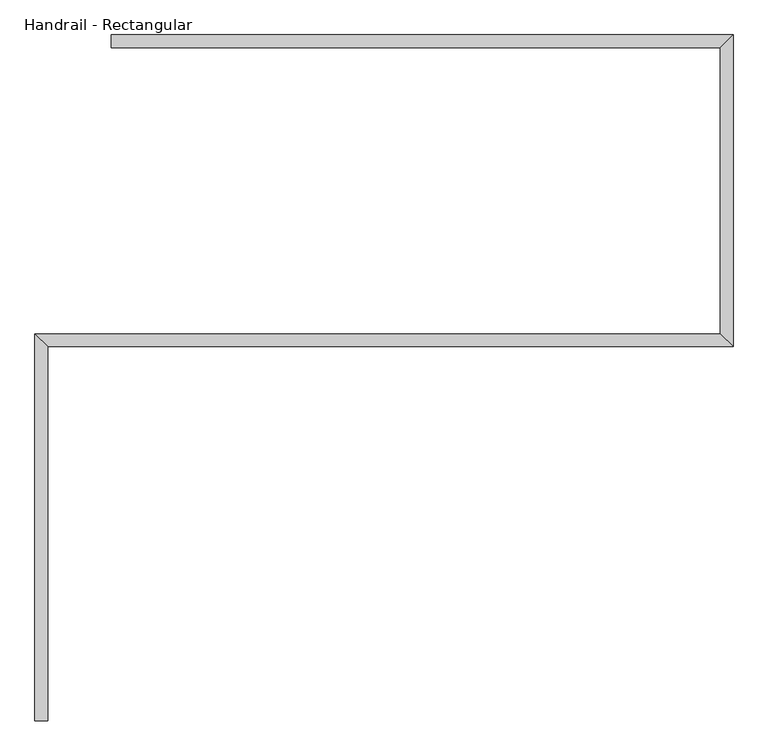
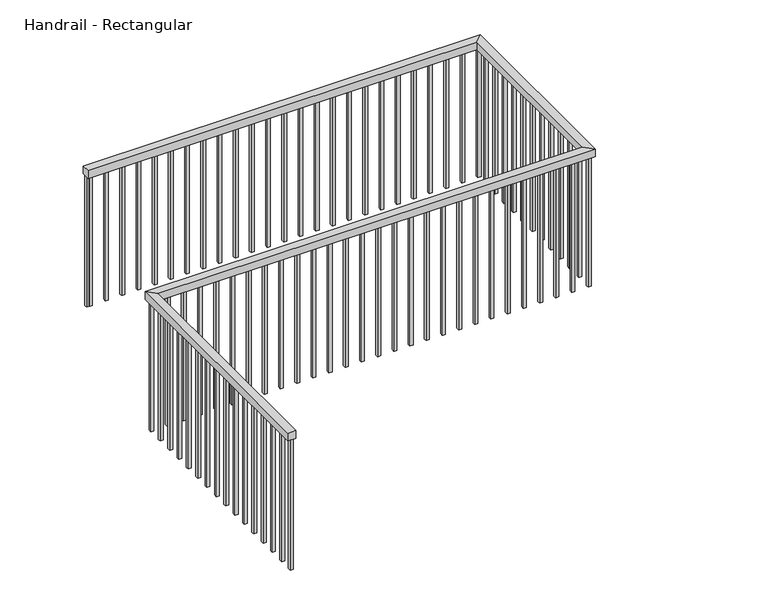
"""IFC4 building model written with IfcOpenShell, lengths in millimetres: railing geometry, Handrail - Rectangular."""

from ifc_helpers import new_model, si_unit, frame, origin, place, context, project, spatial, polyline, outline, extrude, faceted_brep, source, transform, mapped, element, save


def handrail_rectangular_678e5dc5(model_context):
    return source(origin(), model_context, "Body", "SolidModel", [
        faceted_brep([(385.7789583, 6159.6260405, 35509.2), (334.9789583, 6159.6260405, 35509.2), (334.9789583, 6159.6260405, 35458.4), (385.7789583, 6159.6260405, 35458.4), (385.7789583, 7658.2260405, 35509.2), (334.9789583, 7709.0260405, 35509.2), (334.9789583, 7709.0260405, 35458.4), (385.7789583, 7658.2260405, 35458.4), (3128.9789583, 7658.2260405, 35509.2), (3078.1789583, 7709.0260405, 35509.2), (3078.1789583, 7709.0260405, 35458.4), (3128.9789583, 7658.2260405, 35458.4), (3128.9789583, 8906.0010405, 35509.2), (3078.1789583, 8855.2010405, 35509.2), (3078.1789583, 8855.2010405, 35458.4), (3128.9789583, 8906.0010405, 35458.4), (639.7789583, 8906.0010405, 35509.2), (639.7789583, 8906.0010405, 35458.4), (639.7789583, 8855.2010405, 35458.4), (639.7789583, 8855.2010405, 35509.2)], [[[0, 1, 2, 3]], [[1, 0, 4, 5]], [[2, 1, 5, 6]], [[3, 2, 6, 7]], [[0, 3, 7, 4]], [[5, 4, 8, 9]], [[6, 5, 9, 10]], [[7, 6, 10, 11]], [[4, 7, 11, 8]], [[9, 8, 12, 13]], [[10, 9, 13, 14]], [[11, 10, 14, 15]], [[8, 11, 15, 12]], [[16, 17, 18, 19]], [[13, 12, 16, 19]], [[14, 13, 19, 18]], [[15, 14, 18, 17]], [[12, 15, 17, 16]]]),
        extrude(outline(polyline([(674.7039583, 8890.1260405), (674.7039583, 8871.0760405), (655.6539583, 8871.0760405), (655.6539583, 8890.1260405), (674.7039583, 8890.1260405)])), frame((0.0, 0.0, 34594.8), z_axis=(0.0, 0.0, 1.0), x_axis=(1.0, 0.0, 0.0)), (0.0, 0.0, 1.0), 863.6),
        extrude(outline(polyline([(776.3039583, 8890.1260405), (776.3039583, 8871.0760405), (757.2539583, 8871.0760405), (757.2539583, 8890.1260405), (776.3039583, 8890.1260405)])), frame((0.0, 0.0, 34594.8), z_axis=(0.0, 0.0, 1.0), x_axis=(1.0, 0.0, 0.0)), (0.0, 0.0, 1.0), 863.6),
        extrude(outline(polyline([(877.9039583, 8890.1260405), (877.9039583, 8871.0760405), (858.8539583, 8871.0760405), (858.8539583, 8890.1260405), (877.9039583, 8890.1260405)])), frame((0.0, 0.0, 34594.8), z_axis=(0.0, 0.0, 1.0), x_axis=(1.0, 0.0, 0.0)), (0.0, 0.0, 1.0), 863.6),
        extrude(outline(polyline([(979.5039583, 8890.1260405), (979.5039583, 8871.0760405), (960.4539583, 8871.0760405), (960.4539583, 8890.1260405), (979.5039583, 8890.1260405)])), frame((0.0, 0.0, 34594.8), z_axis=(0.0, 0.0, 1.0), x_axis=(1.0, 0.0, 0.0)), (0.0, 0.0, 1.0), 863.6),
        extrude(outline(polyline([(1081.1039583, 8890.1260405), (1081.1039583, 8871.0760405), (1062.0539583, 8871.0760405), (1062.0539583, 8890.1260405), (1081.1039583, 8890.1260405)])), frame((0.0, 0.0, 34594.8), z_axis=(0.0, 0.0, 1.0), x_axis=(1.0, 0.0, 0.0)), (0.0, 0.0, 1.0), 863.6),
        extrude(outline(polyline([(1182.7039583, 8890.1260405), (1182.7039583, 8871.0760405), (1163.6539583, 8871.0760405), (1163.6539583, 8890.1260405), (1182.7039583, 8890.1260405)])), frame((0.0, 0.0, 34594.8), z_axis=(0.0, 0.0, 1.0), x_axis=(1.0, 0.0, 0.0)), (0.0, 0.0, 1.0), 863.6),
        extrude(outline(polyline([(1284.3039583, 8890.1260405), (1284.3039583, 8871.0760405), (1265.2539583, 8871.0760405), (1265.2539583, 8890.1260405), (1284.3039583, 8890.1260405)])), frame((0.0, 0.0, 34594.8), z_axis=(0.0, 0.0, 1.0), x_axis=(1.0, 0.0, 0.0)), (0.0, 0.0, 1.0), 863.6),
        extrude(outline(polyline([(1385.9039583, 8890.1260405), (1385.9039583, 8871.0760405), (1366.8539583, 8871.0760405), (1366.8539583, 8890.1260405), (1385.9039583, 8890.1260405)])), frame((0.0, 0.0, 34594.8), z_axis=(0.0, 0.0, 1.0), x_axis=(1.0, 0.0, 0.0)), (0.0, 0.0, 1.0), 863.6),
        extrude(outline(polyline([(1487.5039583, 8890.1260405), (1487.5039583, 8871.0760405), (1468.4539583, 8871.0760405), (1468.4539583, 8890.1260405), (1487.5039583, 8890.1260405)])), frame((0.0, 0.0, 34594.8), z_axis=(0.0, 0.0, 1.0), x_axis=(1.0, 0.0, 0.0)), (0.0, 0.0, 1.0), 863.6),
        extrude(outline(polyline([(1589.1039583, 8890.1260405), (1589.1039583, 8871.0760405), (1570.0539583, 8871.0760405), (1570.0539583, 8890.1260405), (1589.1039583, 8890.1260405)])), frame((0.0, 0.0, 34594.8), z_axis=(0.0, 0.0, 1.0), x_axis=(1.0, 0.0, 0.0)), (0.0, 0.0, 1.0), 863.6),
        extrude(outline(polyline([(1690.7039583, 8890.1260405), (1690.7039583, 8871.0760405), (1671.6539583, 8871.0760405), (1671.6539583, 8890.1260405), (1690.7039583, 8890.1260405)])), frame((0.0, 0.0, 34594.8), z_axis=(0.0, 0.0, 1.0), x_axis=(1.0, 0.0, 0.0)), (0.0, 0.0, 1.0), 863.6),
        extrude(outline(polyline([(1792.3039583, 8890.1260405), (1792.3039583, 8871.0760405), (1773.2539583, 8871.0760405), (1773.2539583, 8890.1260405), (1792.3039583, 8890.1260405)])), frame((0.0, 0.0, 34594.8), z_axis=(0.0, 0.0, 1.0), x_axis=(1.0, 0.0, 0.0)), (0.0, 0.0, 1.0), 863.6),
        extrude(outline(polyline([(1893.9039583, 8890.1260405), (1893.9039583, 8871.0760405), (1874.8539583, 8871.0760405), (1874.8539583, 8890.1260405), (1893.9039583, 8890.1260405)])), frame((0.0, 0.0, 34594.8), z_axis=(0.0, 0.0, 1.0), x_axis=(1.0, 0.0, 0.0)), (0.0, 0.0, 1.0), 863.6),
        extrude(outline(polyline([(1995.5039583, 8890.1260405), (1995.5039583, 8871.0760405), (1976.4539583, 8871.0760405), (1976.4539583, 8890.1260405), (1995.5039583, 8890.1260405)])), frame((0.0, 0.0, 34594.8), z_axis=(0.0, 0.0, 1.0), x_axis=(1.0, 0.0, 0.0)), (0.0, 0.0, 1.0), 863.6),
        extrude(outline(polyline([(2097.1039583, 8890.1260405), (2097.1039583, 8871.0760405), (2078.0539583, 8871.0760405), (2078.0539583, 8890.1260405), (2097.1039583, 8890.1260405)])), frame((0.0, 0.0, 34594.8), z_axis=(0.0, 0.0, 1.0), x_axis=(1.0, 0.0, 0.0)), (0.0, 0.0, 1.0), 863.6),
        extrude(outline(polyline([(2198.7039583, 8890.1260405), (2198.7039583, 8871.0760405), (2179.6539583, 8871.0760405), (2179.6539583, 8890.1260405), (2198.7039583, 8890.1260405)])), frame((0.0, 0.0, 34594.8), z_axis=(0.0, 0.0, 1.0), x_axis=(1.0, 0.0, 0.0)), (0.0, 0.0, 1.0), 863.6),
        extrude(outline(polyline([(2300.3039583, 8890.1260405), (2300.3039583, 8871.0760405), (2281.2539583, 8871.0760405), (2281.2539583, 8890.1260405), (2300.3039583, 8890.1260405)])), frame((0.0, 0.0, 34594.8), z_axis=(0.0, 0.0, 1.0), x_axis=(1.0, 0.0, 0.0)), (0.0, 0.0, 1.0), 863.6),
        extrude(outline(polyline([(2401.9039583, 8890.1260405), (2401.9039583, 8871.0760405), (2382.8539583, 8871.0760405), (2382.8539583, 8890.1260405), (2401.9039583, 8890.1260405)])), frame((0.0, 0.0, 34594.8), z_axis=(0.0, 0.0, 1.0), x_axis=(1.0, 0.0, 0.0)), (0.0, 0.0, 1.0), 863.6),
        extrude(outline(polyline([(2503.5039583, 8890.1260405), (2503.5039583, 8871.0760405), (2484.4539583, 8871.0760405), (2484.4539583, 8890.1260405), (2503.5039583, 8890.1260405)])), frame((0.0, 0.0, 34594.8), z_axis=(0.0, 0.0, 1.0), x_axis=(1.0, 0.0, 0.0)), (0.0, 0.0, 1.0), 863.6),
        extrude(outline(polyline([(2605.1039583, 8890.1260405), (2605.1039583, 8871.0760405), (2586.0539583, 8871.0760405), (2586.0539583, 8890.1260405), (2605.1039583, 8890.1260405)])), frame((0.0, 0.0, 34594.8), z_axis=(0.0, 0.0, 1.0), x_axis=(1.0, 0.0, 0.0)), (0.0, 0.0, 1.0), 863.6),
        extrude(outline(polyline([(2706.7039583, 8890.1260405), (2706.7039583, 8871.0760405), (2687.6539583, 8871.0760405), (2687.6539583, 8890.1260405), (2706.7039583, 8890.1260405)])), frame((0.0, 0.0, 34594.8), z_axis=(0.0, 0.0, 1.0), x_axis=(1.0, 0.0, 0.0)), (0.0, 0.0, 1.0), 863.6),
        extrude(outline(polyline([(2808.3039583, 8890.1260405), (2808.3039583, 8871.0760405), (2789.2539583, 8871.0760405), (2789.2539583, 8890.1260405), (2808.3039583, 8890.1260405)])), frame((0.0, 0.0, 34594.8), z_axis=(0.0, 0.0, 1.0), x_axis=(1.0, 0.0, 0.0)), (0.0, 0.0, 1.0), 863.6),
        extrude(outline(polyline([(2909.9039583, 8890.1260405), (2909.9039583, 8871.0760405), (2890.8539583, 8871.0760405), (2890.8539583, 8890.1260405), (2909.9039583, 8890.1260405)])), frame((0.0, 0.0, 34594.8), z_axis=(0.0, 0.0, 1.0), x_axis=(1.0, 0.0, 0.0)), (0.0, 0.0, 1.0), 863.6),
        extrude(outline(polyline([(3011.5039583, 8890.1260405), (3011.5039583, 8871.0760405), (2992.4539583, 8871.0760405), (2992.4539583, 8890.1260405), (3011.5039583, 8890.1260405)])), frame((0.0, 0.0, 34594.8), z_axis=(0.0, 0.0, 1.0), x_axis=(1.0, 0.0, 0.0)), (0.0, 0.0, 1.0), 863.6),
        extrude(outline(polyline([(3113.1039583, 8791.7010405), (3094.0539583, 8791.7010405), (3094.0539583, 8810.7510405), (3113.1039583, 8810.7510405), (3113.1039583, 8791.7010405)])), frame((0.0, 0.0, 34594.8), z_axis=(0.0, 0.0, 1.0), x_axis=(1.0, 0.0, 0.0)), (0.0, 0.0, 1.0), 863.6),
        extrude(outline(polyline([(3113.1039583, 8690.1010405), (3094.0539583, 8690.1010405), (3094.0539583, 8709.1510405), (3113.1039583, 8709.1510405), (3113.1039583, 8690.1010405)])), frame((0.0, 0.0, 34594.8), z_axis=(0.0, 0.0, 1.0), x_axis=(1.0, 0.0, 0.0)), (0.0, 0.0, 1.0), 863.6),
        extrude(outline(polyline([(3113.1039583, 8588.5010405), (3094.0539583, 8588.5010405), (3094.0539583, 8607.5510405), (3113.1039583, 8607.5510405), (3113.1039583, 8588.5010405)])), frame((0.0, 0.0, 34594.8), z_axis=(0.0, 0.0, 1.0), x_axis=(1.0, 0.0, 0.0)), (0.0, 0.0, 1.0), 863.6),
        extrude(outline(polyline([(3113.1039583, 8486.9010405), (3094.0539583, 8486.9010405), (3094.0539583, 8505.9510405), (3113.1039583, 8505.9510405), (3113.1039583, 8486.9010405)])), frame((0.0, 0.0, 34594.8), z_axis=(0.0, 0.0, 1.0), x_axis=(1.0, 0.0, 0.0)), (0.0, 0.0, 1.0), 863.6),
        extrude(outline(polyline([(3113.1039583, 8385.3010405), (3094.0539583, 8385.3010405), (3094.0539583, 8404.3510405), (3113.1039583, 8404.3510405), (3113.1039583, 8385.3010405)])), frame((0.0, 0.0, 34594.8), z_axis=(0.0, 0.0, 1.0), x_axis=(1.0, 0.0, 0.0)), (0.0, 0.0, 1.0), 863.6),
        extrude(outline(polyline([(3113.1039583, 8283.7010405), (3094.0539583, 8283.7010405), (3094.0539583, 8302.7510405), (3113.1039583, 8302.7510405), (3113.1039583, 8283.7010405)])), frame((0.0, 0.0, 34594.8), z_axis=(0.0, 0.0, 1.0), x_axis=(1.0, 0.0, 0.0)), (0.0, 0.0, 1.0), 863.6),
        extrude(outline(polyline([(3113.1039583, 8182.1010405), (3094.0539583, 8182.1010405), (3094.0539583, 8201.1510405), (3113.1039583, 8201.1510405), (3113.1039583, 8182.1010405)])), frame((0.0, 0.0, 34594.8), z_axis=(0.0, 0.0, 1.0), x_axis=(1.0, 0.0, 0.0)), (0.0, 0.0, 1.0), 863.6),
        extrude(outline(polyline([(3113.1039583, 8080.5010405), (3094.0539583, 8080.5010405), (3094.0539583, 8099.5510405), (3113.1039583, 8099.5510405), (3113.1039583, 8080.5010405)])), frame((0.0, 0.0, 34594.8), z_axis=(0.0, 0.0, 1.0), x_axis=(1.0, 0.0, 0.0)), (0.0, 0.0, 1.0), 863.6),
        extrude(outline(polyline([(3113.1039583, 7978.9010405), (3094.0539583, 7978.9010405), (3094.0539583, 7997.9510405), (3113.1039583, 7997.9510405), (3113.1039583, 7978.9010405)])), frame((0.0, 0.0, 34594.8), z_axis=(0.0, 0.0, 1.0), x_axis=(1.0, 0.0, 0.0)), (0.0, 0.0, 1.0), 863.6),
        extrude(outline(polyline([(3113.1039583, 7877.3010405), (3094.0539583, 7877.3010405), (3094.0539583, 7896.3510405), (3113.1039583, 7896.3510405), (3113.1039583, 7877.3010405)])), frame((0.0, 0.0, 34594.8), z_axis=(0.0, 0.0, 1.0), x_axis=(1.0, 0.0, 0.0)), (0.0, 0.0, 1.0), 863.6),
        extrude(outline(polyline([(3113.1039583, 7775.7010405), (3094.0539583, 7775.7010405), (3094.0539583, 7794.7510405), (3113.1039583, 7794.7510405), (3113.1039583, 7775.7010405)])), frame((0.0, 0.0, 34594.8), z_axis=(0.0, 0.0, 1.0), x_axis=(1.0, 0.0, 0.0)), (0.0, 0.0, 1.0), 863.6),
        extrude(outline(polyline([(2992.4539583, 7674.1010405), (2992.4539583, 7693.1510405), (3011.5039583, 7693.1510405), (3011.5039583, 7674.1010405), (2992.4539583, 7674.1010405)])), frame((0.0, 0.0, 34594.8), z_axis=(0.0, 0.0, 1.0), x_axis=(1.0, 0.0, 0.0)), (0.0, 0.0, 1.0), 863.6),
        extrude(outline(polyline([(2890.8539583, 7674.1010405), (2890.8539583, 7693.1510405), (2909.9039583, 7693.1510405), (2909.9039583, 7674.1010405), (2890.8539583, 7674.1010405)])), frame((0.0, 0.0, 34594.8), z_axis=(0.0, 0.0, 1.0), x_axis=(1.0, 0.0, 0.0)), (0.0, 0.0, 1.0), 863.6),
        extrude(outline(polyline([(2789.2539583, 7674.1010405), (2789.2539583, 7693.1510405), (2808.3039583, 7693.1510405), (2808.3039583, 7674.1010405), (2789.2539583, 7674.1010405)])), frame((0.0, 0.0, 34594.8), z_axis=(0.0, 0.0, 1.0), x_axis=(1.0, 0.0, 0.0)), (0.0, 0.0, 1.0), 863.6),
        extrude(outline(polyline([(2687.6539583, 7674.1010405), (2687.6539583, 7693.1510405), (2706.7039583, 7693.1510405), (2706.7039583, 7674.1010405), (2687.6539583, 7674.1010405)])), frame((0.0, 0.0, 34594.8), z_axis=(0.0, 0.0, 1.0), x_axis=(1.0, 0.0, 0.0)), (0.0, 0.0, 1.0), 863.6),
        extrude(outline(polyline([(2586.0539583, 7674.1010405), (2586.0539583, 7693.1510405), (2605.1039583, 7693.1510405), (2605.1039583, 7674.1010405), (2586.0539583, 7674.1010405)])), frame((0.0, 0.0, 34594.8), z_axis=(0.0, 0.0, 1.0), x_axis=(1.0, 0.0, 0.0)), (0.0, 0.0, 1.0), 863.6),
        extrude(outline(polyline([(2484.4539583, 7674.1010405), (2484.4539583, 7693.1510405), (2503.5039583, 7693.1510405), (2503.5039583, 7674.1010405), (2484.4539583, 7674.1010405)])), frame((0.0, 0.0, 34594.8), z_axis=(0.0, 0.0, 1.0), x_axis=(1.0, 0.0, 0.0)), (0.0, 0.0, 1.0), 863.6),
        extrude(outline(polyline([(2382.8539583, 7674.1010405), (2382.8539583, 7693.1510405), (2401.9039583, 7693.1510405), (2401.9039583, 7674.1010405), (2382.8539583, 7674.1010405)])), frame((0.0, 0.0, 34594.8), z_axis=(0.0, 0.0, 1.0), x_axis=(1.0, 0.0, 0.0)), (0.0, 0.0, 1.0), 863.6),
        extrude(outline(polyline([(2281.2539583, 7674.1010405), (2281.2539583, 7693.1510405), (2300.3039583, 7693.1510405), (2300.3039583, 7674.1010405), (2281.2539583, 7674.1010405)])), frame((0.0, 0.0, 34594.8), z_axis=(0.0, 0.0, 1.0), x_axis=(1.0, 0.0, 0.0)), (0.0, 0.0, 1.0), 863.6),
        extrude(outline(polyline([(2179.6539583, 7674.1010405), (2179.6539583, 7693.1510405), (2198.7039583, 7693.1510405), (2198.7039583, 7674.1010405), (2179.6539583, 7674.1010405)])), frame((0.0, 0.0, 34594.8), z_axis=(0.0, 0.0, 1.0), x_axis=(1.0, 0.0, 0.0)), (0.0, 0.0, 1.0), 863.6),
        extrude(outline(polyline([(2078.0539583, 7674.1010405), (2078.0539583, 7693.1510405), (2097.1039583, 7693.1510405), (2097.1039583, 7674.1010405), (2078.0539583, 7674.1010405)])), frame((0.0, 0.0, 34594.8), z_axis=(0.0, 0.0, 1.0), x_axis=(1.0, 0.0, 0.0)), (0.0, 0.0, 1.0), 863.6),
        extrude(outline(polyline([(1976.4539583, 7674.1010405), (1976.4539583, 7693.1510405), (1995.5039583, 7693.1510405), (1995.5039583, 7674.1010405), (1976.4539583, 7674.1010405)])), frame((0.0, 0.0, 34594.8), z_axis=(0.0, 0.0, 1.0), x_axis=(1.0, 0.0, 0.0)), (0.0, 0.0, 1.0), 863.6),
        extrude(outline(polyline([(1874.8539583, 7674.1010405), (1874.8539583, 7693.1510405), (1893.9039583, 7693.1510405), (1893.9039583, 7674.1010405), (1874.8539583, 7674.1010405)])), frame((0.0, 0.0, 34594.8), z_axis=(0.0, 0.0, 1.0), x_axis=(1.0, 0.0, 0.0)), (0.0, 0.0, 1.0), 863.6),
        extrude(outline(polyline([(1773.2539583, 7674.1010405), (1773.2539583, 7693.1510405), (1792.3039583, 7693.1510405), (1792.3039583, 7674.1010405), (1773.2539583, 7674.1010405)])), frame((0.0, 0.0, 34594.8), z_axis=(0.0, 0.0, 1.0), x_axis=(1.0, 0.0, 0.0)), (0.0, 0.0, 1.0), 863.6),
        extrude(outline(polyline([(1671.6539583, 7674.1010405), (1671.6539583, 7693.1510405), (1690.7039583, 7693.1510405), (1690.7039583, 7674.1010405), (1671.6539583, 7674.1010405)])), frame((0.0, 0.0, 34594.8), z_axis=(0.0, 0.0, 1.0), x_axis=(1.0, 0.0, 0.0)), (0.0, 0.0, 1.0), 863.6),
        extrude(outline(polyline([(1570.0539583, 7674.1010405), (1570.0539583, 7693.1510405), (1589.1039583, 7693.1510405), (1589.1039583, 7674.1010405), (1570.0539583, 7674.1010405)])), frame((0.0, 0.0, 34594.8), z_axis=(0.0, 0.0, 1.0), x_axis=(1.0, 0.0, 0.0)), (0.0, 0.0, 1.0), 863.6),
        extrude(outline(polyline([(1468.4539583, 7674.1010405), (1468.4539583, 7693.1510405), (1487.5039583, 7693.1510405), (1487.5039583, 7674.1010405), (1468.4539583, 7674.1010405)])), frame((0.0, 0.0, 34594.8), z_axis=(0.0, 0.0, 1.0), x_axis=(1.0, 0.0, 0.0)), (0.0, 0.0, 1.0), 863.6),
        extrude(outline(polyline([(1366.8539583, 7674.1010405), (1366.8539583, 7693.1510405), (1385.9039583, 7693.1510405), (1385.9039583, 7674.1010405), (1366.8539583, 7674.1010405)])), frame((0.0, 0.0, 34594.8), z_axis=(0.0, 0.0, 1.0), x_axis=(1.0, 0.0, 0.0)), (0.0, 0.0, 1.0), 863.6),
        extrude(outline(polyline([(1265.2539583, 7674.1010405), (1265.2539583, 7693.1510405), (1284.3039583, 7693.1510405), (1284.3039583, 7674.1010405), (1265.2539583, 7674.1010405)])), frame((0.0, 0.0, 34594.8), z_axis=(0.0, 0.0, 1.0), x_axis=(1.0, 0.0, 0.0)), (0.0, 0.0, 1.0), 863.6),
        extrude(outline(polyline([(1163.6539583, 7674.1010405), (1163.6539583, 7693.1510405), (1182.7039583, 7693.1510405), (1182.7039583, 7674.1010405), (1163.6539583, 7674.1010405)])), frame((0.0, 0.0, 34594.8), z_axis=(0.0, 0.0, 1.0), x_axis=(1.0, 0.0, 0.0)), (0.0, 0.0, 1.0), 863.6),
        extrude(outline(polyline([(1062.0539583, 7674.1010405), (1062.0539583, 7693.1510405), (1081.1039583, 7693.1510405), (1081.1039583, 7674.1010405), (1062.0539583, 7674.1010405)])), frame((0.0, 0.0, 34594.8), z_axis=(0.0, 0.0, 1.0), x_axis=(1.0, 0.0, 0.0)), (0.0, 0.0, 1.0), 863.6),
        extrude(outline(polyline([(960.4539583, 7674.1010405), (960.4539583, 7693.1510405), (979.5039583, 7693.1510405), (979.5039583, 7674.1010405), (960.4539583, 7674.1010405)])), frame((0.0, 0.0, 34594.8), z_axis=(0.0, 0.0, 1.0), x_axis=(1.0, 0.0, 0.0)), (0.0, 0.0, 1.0), 863.6),
        extrude(outline(polyline([(858.8539583, 7674.1010405), (858.8539583, 7693.1510405), (877.9039583, 7693.1510405), (877.9039583, 7674.1010405), (858.8539583, 7674.1010405)])), frame((0.0, 0.0, 34594.8), z_axis=(0.0, 0.0, 1.0), x_axis=(1.0, 0.0, 0.0)), (0.0, 0.0, 1.0), 863.6),
        extrude(outline(polyline([(757.2539583, 7674.1010405), (757.2539583, 7693.1510405), (776.3039583, 7693.1510405), (776.3039583, 7674.1010405), (757.2539583, 7674.1010405)])), frame((0.0, 0.0, 34594.8), z_axis=(0.0, 0.0, 1.0), x_axis=(1.0, 0.0, 0.0)), (0.0, 0.0, 1.0), 863.6),
        extrude(outline(polyline([(655.6539583, 7674.1010405), (655.6539583, 7693.1510405), (674.7039583, 7693.1510405), (674.7039583, 7674.1010405), (655.6539583, 7674.1010405)])), frame((0.0, 0.0, 34594.8), z_axis=(0.0, 0.0, 1.0), x_axis=(1.0, 0.0, 0.0)), (0.0, 0.0, 1.0), 863.6),
        extrude(outline(polyline([(554.0539583, 7674.1010405), (554.0539583, 7693.1510405), (573.1039583, 7693.1510405), (573.1039583, 7674.1010405), (554.0539583, 7674.1010405)])), frame((0.0, 0.0, 34594.8), z_axis=(0.0, 0.0, 1.0), x_axis=(1.0, 0.0, 0.0)), (0.0, 0.0, 1.0), 863.6),
        extrude(outline(polyline([(452.4539583, 7674.1010405), (452.4539583, 7693.1510405), (471.5039583, 7693.1510405), (471.5039583, 7674.1010405), (452.4539583, 7674.1010405)])), frame((0.0, 0.0, 34594.8), z_axis=(0.0, 0.0, 1.0), x_axis=(1.0, 0.0, 0.0)), (0.0, 0.0, 1.0), 863.6),
        extrude(outline(polyline([(369.9039583, 7572.5010405), (350.8539583, 7572.5010405), (350.8539583, 7591.5510405), (369.9039583, 7591.5510405), (369.9039583, 7572.5010405)])), frame((0.0, 0.0, 34594.8), z_axis=(0.0, 0.0, 1.0), x_axis=(1.0, 0.0, 0.0)), (0.0, 0.0, 1.0), 863.6),
        extrude(outline(polyline([(369.9039583, 7470.9010405), (350.8539583, 7470.9010405), (350.8539583, 7489.9510405), (369.9039583, 7489.9510405), (369.9039583, 7470.9010405)])), frame((0.0, 0.0, 34594.8), z_axis=(0.0, 0.0, 1.0), x_axis=(1.0, 0.0, 0.0)), (0.0, 0.0, 1.0), 863.6),
        extrude(outline(polyline([(369.9039583, 7369.3010405), (350.8539583, 7369.3010405), (350.8539583, 7388.3510405), (369.9039583, 7388.3510405), (369.9039583, 7369.3010405)])), frame((0.0, 0.0, 34594.8), z_axis=(0.0, 0.0, 1.0), x_axis=(1.0, 0.0, 0.0)), (0.0, 0.0, 1.0), 863.6),
        extrude(outline(polyline([(369.9039583, 7267.7010405), (350.8539583, 7267.7010405), (350.8539583, 7286.7510405), (369.9039583, 7286.7510405), (369.9039583, 7267.7010405)])), frame((0.0, 0.0, 34594.8), z_axis=(0.0, 0.0, 1.0), x_axis=(1.0, 0.0, 0.0)), (0.0, 0.0, 1.0), 863.6),
        extrude(outline(polyline([(369.9039583, 7166.1010405), (350.8539583, 7166.1010405), (350.8539583, 7185.1510405), (369.9039583, 7185.1510405), (369.9039583, 7166.1010405)])), frame((0.0, 0.0, 34594.8), z_axis=(0.0, 0.0, 1.0), x_axis=(1.0, 0.0, 0.0)), (0.0, 0.0, 1.0), 863.6),
        extrude(outline(polyline([(369.9039583, 7064.5010405), (350.8539583, 7064.5010405), (350.8539583, 7083.5510405), (369.9039583, 7083.5510405), (369.9039583, 7064.5010405)])), frame((0.0, 0.0, 34594.8), z_axis=(0.0, 0.0, 1.0), x_axis=(1.0, 0.0, 0.0)), (0.0, 0.0, 1.0), 863.6),
        extrude(outline(polyline([(369.9039583, 6962.9010405), (350.8539583, 6962.9010405), (350.8539583, 6981.9510405), (369.9039583, 6981.9510405), (369.9039583, 6962.9010405)])), frame((0.0, 0.0, 34594.8), z_axis=(0.0, 0.0, 1.0), x_axis=(1.0, 0.0, 0.0)), (0.0, 0.0, 1.0), 863.6),
        extrude(outline(polyline([(369.9039583, 6861.3010405), (350.8539583, 6861.3010405), (350.8539583, 6880.3510405), (369.9039583, 6880.3510405), (369.9039583, 6861.3010405)])), frame((0.0, 0.0, 34594.8), z_axis=(0.0, 0.0, 1.0), x_axis=(1.0, 0.0, 0.0)), (0.0, 0.0, 1.0), 863.6),
        extrude(outline(polyline([(369.9039583, 6759.7010405), (350.8539583, 6759.7010405), (350.8539583, 6778.7510405), (369.9039583, 6778.7510405), (369.9039583, 6759.7010405)])), frame((0.0, 0.0, 34594.8), z_axis=(0.0, 0.0, 1.0), x_axis=(1.0, 0.0, 0.0)), (0.0, 0.0, 1.0), 863.6),
        extrude(outline(polyline([(369.9039583, 6658.1010405), (350.8539583, 6658.1010405), (350.8539583, 6677.1510405), (369.9039583, 6677.1510405), (369.9039583, 6658.1010405)])), frame((0.0, 0.0, 34594.8), z_axis=(0.0, 0.0, 1.0), x_axis=(1.0, 0.0, 0.0)), (0.0, 0.0, 1.0), 863.6),
        extrude(outline(polyline([(369.9039583, 6556.5010405), (350.8539583, 6556.5010405), (350.8539583, 6575.5510405), (369.9039583, 6575.5510405), (369.9039583, 6556.5010405)])), frame((0.0, 0.0, 34594.8), z_axis=(0.0, 0.0, 1.0), x_axis=(1.0, 0.0, 0.0)), (0.0, 0.0, 1.0), 863.6),
        extrude(outline(polyline([(369.9039583, 6454.9010405), (350.8539583, 6454.9010405), (350.8539583, 6473.9510405), (369.9039583, 6473.9510405), (369.9039583, 6454.9010405)])), frame((0.0, 0.0, 34594.8), z_axis=(0.0, 0.0, 1.0), x_axis=(1.0, 0.0, 0.0)), (0.0, 0.0, 1.0), 863.6),
        extrude(outline(polyline([(369.9039583, 6353.3010405), (350.8539583, 6353.3010405), (350.8539583, 6372.3510405), (369.9039583, 6372.3510405), (369.9039583, 6353.3010405)])), frame((0.0, 0.0, 34594.8), z_axis=(0.0, 0.0, 1.0), x_axis=(1.0, 0.0, 0.0)), (0.0, 0.0, 1.0), 863.6),
        extrude(outline(polyline([(369.9039583, 6251.7010405), (350.8539583, 6251.7010405), (350.8539583, 6270.7510405), (369.9039583, 6270.7510405), (369.9039583, 6251.7010405)])), frame((0.0, 0.0, 34594.8), z_axis=(0.0, 0.0, 1.0), x_axis=(1.0, 0.0, 0.0)), (0.0, 0.0, 1.0), 863.6),
        extrude(outline(polyline([(3113.1039583, 8871.0760405), (3094.0539583, 8871.0760405), (3094.0539583, 8890.1260405), (3113.1039583, 8890.1260405), (3113.1039583, 8871.0760405)])), frame((0.0, 0.0, 34594.8), z_axis=(0.0, 0.0, 1.0), x_axis=(1.0, 0.0, 0.0)), (0.0, 0.0, 1.0), 863.6),
        extrude(outline(polyline([(3094.0539583, 7674.1010405), (3094.0539583, 7693.1510405), (3113.1039583, 7693.1510405), (3113.1039583, 7674.1010405), (3094.0539583, 7674.1010405)])), frame((0.0, 0.0, 34594.8), z_axis=(0.0, 0.0, 1.0), x_axis=(1.0, 0.0, 0.0)), (0.0, 0.0, 1.0), 863.6),
        extrude(outline(polyline([(369.9039583, 7674.1010405), (350.8539583, 7674.1010405), (350.8539583, 7693.1510405), (369.9039583, 7693.1510405), (369.9039583, 7674.1010405)])), frame((0.0, 0.0, 34594.8), z_axis=(0.0, 0.0, 1.0), x_axis=(1.0, 0.0, 0.0)), (0.0, 0.0, 1.0), 863.6),
        extrude(outline(polyline([(658.8289583, 8890.1260405), (658.8289583, 8871.0760405), (639.7789583, 8871.0760405), (639.7789583, 8890.1260405), (658.8289583, 8890.1260405)])), frame((0.0, 0.0, 34594.8), z_axis=(0.0, 0.0, 1.0), x_axis=(1.0, 0.0, 0.0)), (0.0, 0.0, 1.0), 863.6),
        extrude(outline(polyline([(369.9039583, 6159.6260405), (350.8539583, 6159.6260405), (350.8539583, 6178.6760405), (369.9039583, 6178.6760405), (369.9039583, 6159.6260405)])), frame((0.0, 0.0, 34594.8), z_axis=(0.0, 0.0, 1.0), x_axis=(1.0, 0.0, 0.0)), (0.0, 0.0, 1.0), 863.6),
    ])


if __name__ == "__main__":
    model = new_model("IFC4")
    model_context = context("Model", 3, world=origin())
    ifc_project = project(units=[si_unit("LENGTHUNIT", "METRE", prefix="MILLI")], contexts=[model_context])
    site = spatial("IfcSite", under=ifc_project)
    building = spatial("IfcBuilding", under=site)
    placement = place(None, origin())
    handrail_rectangular_shape = handrail_rectangular_678e5dc5(model_context)
    element("IfcRailing", 1, ObjectType="Handrail - Rectangular", at=placement, inside=building, context=model_context, shape_type="MappedRepresentation", body=[
        mapped(handrail_rectangular_shape, transform((0.0, 0.0, 0.0), x_axis=(1.0, 0.0, 0.0), y_axis=(0.0, 1.0, 0.0), z_axis=(0.0, 0.0, 1.0))),
    ])
    save(model, "model.ifc")
